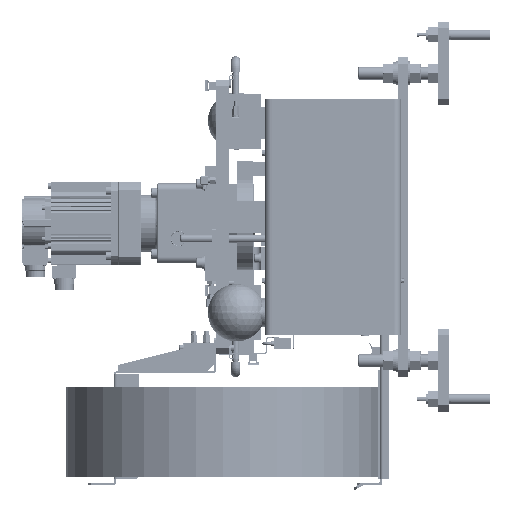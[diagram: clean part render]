
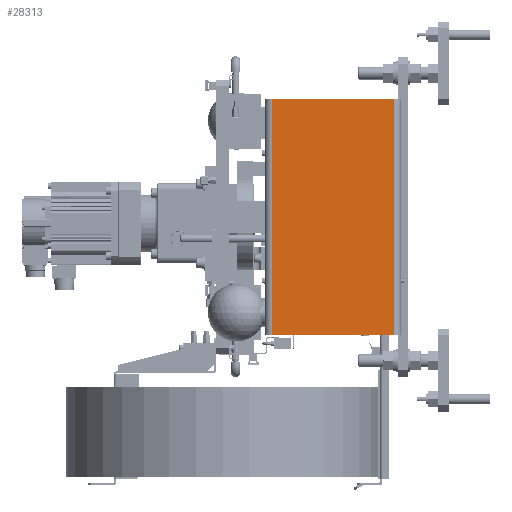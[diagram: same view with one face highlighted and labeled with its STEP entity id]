
A CAD part, left-side view. The second image highlights one B-rep face of the part: STEP entity #28313.
In plain terms, the highlighted planar face has unit normal (-1, 0, 0).
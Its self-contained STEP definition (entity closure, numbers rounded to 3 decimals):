
#6407 = DIRECTION ( 'NONE',  ( 1., 0., 0. ) ) ;
#7233 = PLANE ( 'NONE',  #76368 ) ;
#9042 = EDGE_CURVE ( 'NONE', #148684, #31568, #84166, .T. ) ;
#10695 = CARTESIAN_POINT ( 'NONE',  ( -63., 202.2, 185. ) ) ;
#19238 = DIRECTION ( 'NONE',  ( 0., 1., 0. ) ) ;
#28313 = ADVANCED_FACE ( 'NONE', ( #152961 ), #7233, .F. ) ;
#30569 = VECTOR ( 'NONE', #91271, 1000. ) ;
#31568 = VERTEX_POINT ( 'NONE', #162258 ) ;
#34945 = VECTOR ( 'NONE', #129221, 1000. ) ;
#38514 = VERTEX_POINT ( 'NONE', #112550 ) ;
#55314 = CARTESIAN_POINT ( 'NONE',  ( -63., 10.8, 185. ) ) ;
#58073 = LINE ( 'NONE', #89746, #154130 ) ;
#60155 = ORIENTED_EDGE ( 'NONE', *, *, #9042, .F. ) ;
#62087 = LINE ( 'NONE', #10695, #30569 ) ;
#65806 = CARTESIAN_POINT ( 'NONE',  ( -63., 10.8, 185. ) ) ;
#75933 = LINE ( 'NONE', #89623, #34945 ) ;
#76368 = AXIS2_PLACEMENT_3D ( 'NONE', #85212, #6407, #19238 ) ;
#84166 = LINE ( 'NONE', #55314, #101136 ) ;
#84406 = DIRECTION ( 'NONE',  ( 0., 0., -1. ) ) ;
#85212 = CARTESIAN_POINT ( 'NONE',  ( -63., 10.8, 185. ) ) ;
#89623 = CARTESIAN_POINT ( 'NONE',  ( -63., 10.8, 185. ) ) ;
#89746 = CARTESIAN_POINT ( 'NONE',  ( -63., 10.8, -185. ) ) ;
#91262 = ORIENTED_EDGE ( 'NONE', *, *, #157364, .F. ) ;
#91271 = DIRECTION ( 'NONE',  ( 0., 0., -1. ) ) ;
#95565 = EDGE_LOOP ( 'NONE', ( #161096, #60155, #91262, #120586 ) ) ;
#101136 = VECTOR ( 'NONE', #84406, 1000. ) ;
#104650 = EDGE_CURVE ( 'NONE', #38514, #31568, #58073, .T. ) ;
#111911 = CARTESIAN_POINT ( 'NONE',  ( -63., 202.2, 185. ) ) ;
#112550 = CARTESIAN_POINT ( 'NONE',  ( -63., 202.2, -185. ) ) ;
#120586 = ORIENTED_EDGE ( 'NONE', *, *, #120778, .T. ) ;
#120778 = EDGE_CURVE ( 'NONE', #137385, #38514, #62087, .T. ) ;
#129221 = DIRECTION ( 'NONE',  ( 0., -1., 0. ) ) ;
#137385 = VERTEX_POINT ( 'NONE', #111911 ) ;
#142119 = DIRECTION ( 'NONE',  ( 0., -1., 0. ) ) ;
#148684 = VERTEX_POINT ( 'NONE', #65806 ) ;
#152961 = FACE_OUTER_BOUND ( 'NONE', #95565, .T. ) ;
#154130 = VECTOR ( 'NONE', #142119, 1000. ) ;
#157364 = EDGE_CURVE ( 'NONE', #137385, #148684, #75933, .T. ) ;
#161096 = ORIENTED_EDGE ( 'NONE', *, *, #104650, .T. ) ;
#162258 = CARTESIAN_POINT ( 'NONE',  ( -63., 10.8, -185. ) ) ;
